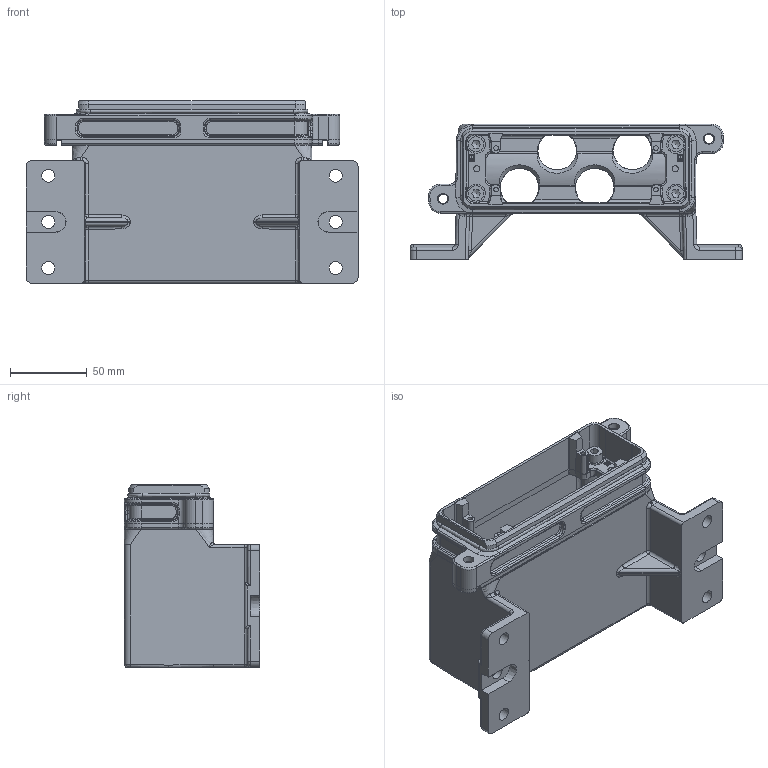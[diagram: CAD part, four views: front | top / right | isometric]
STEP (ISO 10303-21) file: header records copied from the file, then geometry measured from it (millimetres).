
FILE_DESCRIPTION(/* description */ (''),/* implementation_level */ '2;1');
FILE_NAME(/* name */ '100217547ugm000_h.stp',/* time_stamp */ '2023-10-26T13:46:16+02:00',/* author */ (''),/* organization */ (''),/* preprocessor_version */ 'ST-DEVELOPER v19.3',/* originating_system */ 'SIEMENS PLM Software NX2212.6000',/* authorisation */ '');
FILE_SCHEMA (('AUTOMOTIVE_DESIGN { 1 0 10303 214 3 1 1 1 }'));
Length unit declared in the file: millimetre
Products named in the file (1): 100217547ugm000_h
Bounding box: 216 x 88 x 118.9 mm (x, y, z)
Volume: 456195.6 mm3; surface area: 138795.6 mm2
Topology: 1 solids, 1 shells, 1010 faces, 2575 edges, 1585 vertices
Faces by surface type: plane 495, cylinder 248, bspline 133, cone 82, torus 40, sphere 12
Full cylindrical faces by diameter (mm): 3 x4, 3.355 x2, 3.599 x2, 4 x2, 6 x2, 7.1 x2, 8.5 x6, 10 x4, 12 x4, 25 x4
Entity records: 44585 total; most frequent: CARTESIAN_POINT 18276, ORIENTED_EDGE 4974, DIRECTION 4633, EDGE_CURVE 2487, AXIS2_PLACEMENT_3D 1594, VERTEX_POINT 1559, LINE 1445, VECTOR 1445
